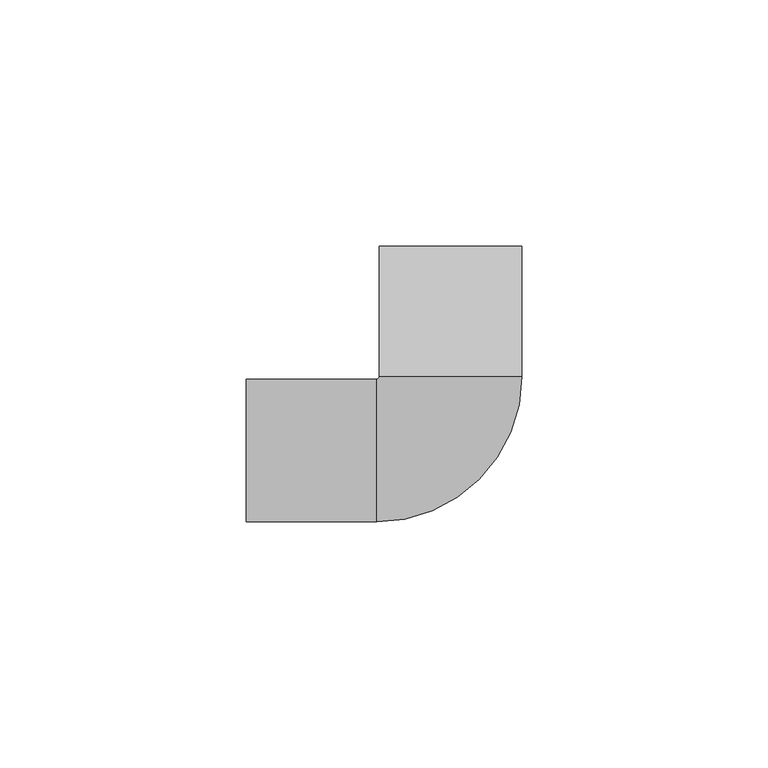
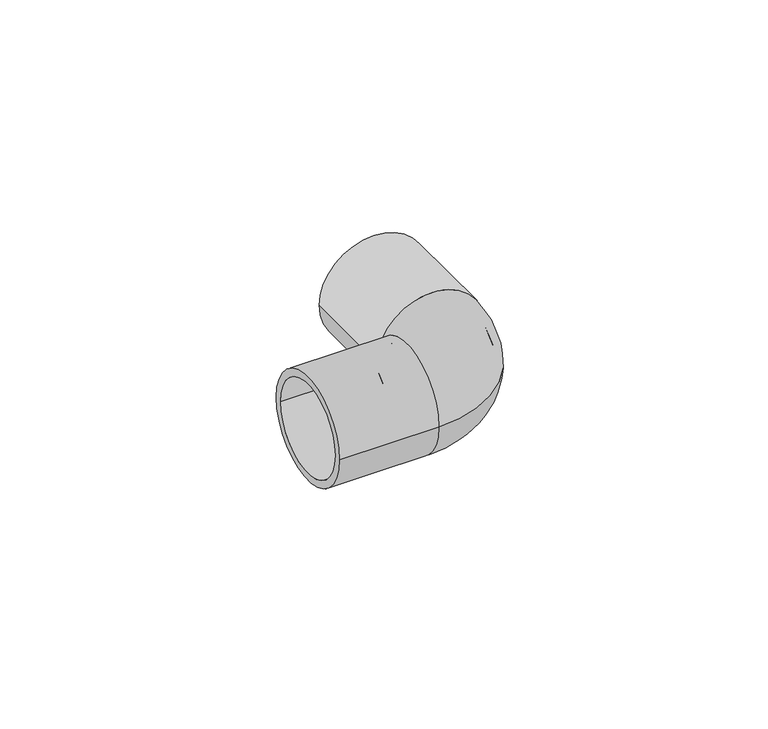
"""IFC4 building model written with IfcOpenShell, lengths in millimetres: cable carrier fitting geometry."""

import ifcopenshell
import ifcopenshell.guid

model = None  # the IFC model being written
_history = None  # IfcOwnerHistory: only IFC2X3 demands one
_inside = {}  # id of a spatial element -> (the spatial element, [elements in it])
_under = {}  # id of a project, library or spatial element -> (it, [spatial elements below it])
_declared = {}  # id of a project -> (the project, [libraries it declares])
_typed = {}  # id of a type object -> (the type object, [elements of that type])
_made_of = {}  # id of a material, layer set ... -> (it, [elements and type objects made of it])


def new_model(schema):
    """Start an empty IFC model of exactly this schema.

    Asked for "IFC4X3", IfcOpenShell would pick the latest addendum, in which some entities
    have other attributes; the version numbers below select the first issue.
    IFC2X3 requires an IfcOwnerHistory on every rooted entity: one is made here for all.
    """
    global model, _history
    if schema == "IFC4X3":
        model = ifcopenshell.file(schema_version=(4, 3, 0, 0))
    else:
        model = ifcopenshell.file(schema=schema)
    _inside.clear()
    _under.clear()
    _declared.clear()
    _typed.clear()
    _made_of.clear()
    _history = None
    if model.schema == "IFC2X3":
        org = make("IfcOrganization", Name="unknown")
        user = make(
            "IfcPersonAndOrganization",
            ThePerson=make("IfcPerson", FamilyName="unknown"),
            TheOrganization=org,
        )
        app = make(
            "IfcApplication",
            ApplicationDeveloper=org,
            Version="unknown",
            ApplicationFullName="unknown",
            ApplicationIdentifier="unknown",
        )
        _history = make(
            "IfcOwnerHistory",
            OwningUser=user,
            OwningApplication=app,
            ChangeAction="ADDED",
            CreationDate=0,
        )
    return model


def make(cls, **values):
    """One entity of the class cls with the attributes given. An attribute that is None is left unset."""
    return model.create_entity(
        cls, **{name: value for name, value in values.items() if value is not None}
    )


def rooted(cls, **values):
    """An entity with a GlobalId (a new one), such as an element, a storey or a relation."""
    return make(cls, GlobalId=ifcopenshell.guid.new(), OwnerHistory=_history, **values)


def si_unit(unit_type, name, prefix=None):
    """IfcSIUnit, for example si_unit("LENGTHUNIT", "METRE", prefix="MILLI")."""
    return make("IfcSIUnit", UnitType=unit_type, Prefix=prefix, Name=name)


def assignment(units):
    """IfcUnitAssignment: the units of a project."""
    return None if units is None else make("IfcUnitAssignment", Units=units)


def point(xyz):
    """IfcCartesianPoint."""
    return None if xyz is None else make("IfcCartesianPoint", Coordinates=xyz)


def direction(xyz):
    """IfcDirection."""
    return None if xyz is None else make("IfcDirection", DirectionRatios=xyz)


def frame(location, z_axis=None, x_axis=None):
    """IfcAxis2Placement3D, a coordinate frame: its origin and axes. An axis left out is left unset."""
    return make(
        "IfcAxis2Placement3D",
        Location=point(location),
        Axis=direction(z_axis),
        RefDirection=direction(x_axis),
    )


def origin():
    """The frame at (0, 0, 0) with its axes left unset."""
    return frame((0.0, 0.0, 0.0))


def place(relative_to, where):
    """IfcLocalPlacement: puts the frame where relative to a parent placement (None: the world)."""
    return make(
        "IfcLocalPlacement", PlacementRelTo=relative_to, RelativePlacement=where
    )


def context(
    kind, dimensions, precision=None, world=None, true_north=None, identifier=None
):
    """IfcGeometricRepresentationContext, for example the 3D "Model" context."""
    return make(
        "IfcGeometricRepresentationContext",
        ContextIdentifier=identifier,
        ContextType=kind,
        CoordinateSpaceDimension=dimensions,
        Precision=precision,
        WorldCoordinateSystem=world,
        TrueNorth=true_north,
    )


def project(units=None, contexts=None):
    """IfcProject with its units and contexts."""
    return rooted(
        "IfcProject",
        Name="project",
        RepresentationContexts=contexts,
        UnitsInContext=assignment(units),
    )


def spatial(cls, under=None, at=None, **own):
    """A site, building, storey or space (cls), placed at a placement, below another one or the project."""
    s = rooted(cls, ObjectPlacement=at, **own)
    if under is not None:
        _under.setdefault(under.id(), (under, []))[1].append(s)
    return s


def polyline(points):
    """IfcPolyline through the points."""
    return make("IfcPolyline", Points=[point(p) for p in points])


def circle_curve(where, radius):
    """IfcCircle in the frame where."""
    return make("IfcCircle", Position=where, Radius=radius)


def ellipse_curve(where, semi_axis1, semi_axis2):
    """IfcEllipse in the frame where."""
    return make(
        "IfcEllipse", Position=where, SemiAxis1=semi_axis1, SemiAxis2=semi_axis2
    )


def trimmed(basis, trim1, trim2, sense, master):
    """IfcTrimmedCurve: the piece of a basis curve between two trims."""
    return make(
        "IfcTrimmedCurve",
        BasisCurve=basis,
        Trim1=trim1,
        Trim2=trim2,
        SenseAgreement=sense,
        MasterRepresentation=master,
    )


def shape(context_of_items, identifier, shape_type, items):
    """IfcShapeRepresentation: the items that make up one representation, for example the "Body"."""
    return make(
        "IfcShapeRepresentation",
        ContextOfItems=context_of_items,
        RepresentationIdentifier=identifier,
        RepresentationType=shape_type,
        Items=items,
    )


def source(mapping_origin, context_of_items, identifier, shape_type, items):
    """IfcRepresentationMap: a shape defined once, which mapped items show again and again."""
    return make(
        "IfcRepresentationMap",
        MappingOrigin=mapping_origin,
        MappedRepresentation=shape(context_of_items, identifier, shape_type, items),
    )


def transform(
    local_origin,
    x_axis=None,
    y_axis=None,
    z_axis=None,
    scale=None,
    scale2=None,
    scale3=None,
    uniform=True,
):
    """IfcCartesianTransformationOperator3D, or its non-uniform kind. x_axis, y_axis, z_axis: its Axis1, 2, 3."""
    if uniform:
        return make(
            "IfcCartesianTransformationOperator3D",
            Axis1=direction(x_axis),
            Axis2=direction(y_axis),
            LocalOrigin=point(local_origin),
            Scale=scale,
            Axis3=direction(z_axis),
        )
    return make(
        "IfcCartesianTransformationOperator3DnonUniform",
        Axis1=direction(x_axis),
        Axis2=direction(y_axis),
        LocalOrigin=point(local_origin),
        Scale=scale,
        Axis3=direction(z_axis),
        Scale2=scale2,
        Scale3=scale3,
    )


def mapped(mapping_source, mapping_target):
    """IfcMappedItem: shows the shape of a source again, moved by a transform."""
    return make(
        "IfcMappedItem", MappingSource=mapping_source, MappingTarget=mapping_target
    )


def made_of(thing, what):
    """Note that an element or type object is made of a material, layer set ...; save() writes the relation."""
    if what is not None:
        _made_of.setdefault(what.id(), (what, []))[1].append(thing)
    return thing


def element(
    cls,
    number,
    at=None,
    inside=None,
    cuts=None,
    type_object=None,
    material=None,
    context=None,
    identifier="Body",
    shape_type=None,
    held_by="IfcProductDefinitionShape",
    body=None,
    shapes=None,
    **own,
):
    """One element of the class cls, such as IfcWall. Its Tag is "e" and its number.

    at: its placement. inside: the storey or other place that contains it. cuts: it is an
    opening in that element (IfcRelVoidsElement). A single representation is given by context,
    identifier, shape_type and body (its items); several are given by shapes. held_by: the class
    of the entity that holds the representations. save() writes the other relations.
    """
    e = rooted(cls, Tag="e%d" % number, ObjectPlacement=at, **own)
    if body is not None:
        shapes = [shape(context, identifier, shape_type, body)]
    if shapes is not None:
        e.Representation = make(held_by, Representations=shapes)
    if inside is not None:
        _inside.setdefault(inside.id(), (inside, []))[1].append(e)
    if cuts is not None:
        rooted(
            "IfcRelVoidsElement", RelatingBuildingElement=cuts, RelatedOpeningElement=e
        )
    if type_object is not None:
        _typed.setdefault(type_object.id(), (type_object, []))[1].append(e)
    return made_of(e, material)


def aggregate(whole, parts):
    """IfcRelAggregates: a whole, such as a stair, and the parts it consists of."""
    return rooted("IfcRelAggregates", RelatingObject=whole, RelatedObjects=parts)


def save(model, path):
    """Write the relations noted so far, then the file.

    IfcRelAggregates (storeys below a building ...), IfcRelContainedInSpatialStructure (elements
    in a storey), IfcRelDefinesByType, IfcRelAssociatesMaterial and IfcRelDeclares: one each for
    every whole, place, type object, material and project.
    """
    for whole, parts in _under.values():
        aggregate(whole, parts)
    for where, things in _inside.values():
        rooted(
            "IfcRelContainedInSpatialStructure",
            RelatedElements=things,
            RelatingStructure=where,
        )
    for kind, things in _typed.values():
        rooted("IfcRelDefinesByType", RelatedObjects=things, RelatingType=kind)
    for what, things in _made_of.values():
        rooted("IfcRelAssociatesMaterial", RelatedObjects=things, RelatingMaterial=what)
    for by, libraries in _declared.values():
        rooted("IfcRelDeclares", RelatingContext=by, RelatedDefinitions=libraries)
    model.write(path)


def plane_surface(at):
    """IfcPlane: the flat surface through the origin of the frame at, square to its z axis."""
    return make("IfcPlane", Position=at)


def cylinder_surface(at, radius):
    """IfcCylindricalSurface: all points at the distance radius from the z axis of the frame at."""
    return make("IfcCylindricalSurface", Position=at, Radius=radius)


def revolved_surface(curve, axis_point, axis_direction):
    """IfcSurfaceOfRevolution: the curve turned about the line through axis_point along axis_direction."""
    return make(
        "IfcSurfaceOfRevolution",
        SweptCurve=make("IfcArbitraryOpenProfileDef", ProfileType="CURVE", Curve=curve),
        AxisPosition=make("IfcAxis1Placement", Location=point(axis_point), Axis=direction(axis_direction)),
    )


def advanced_brep(points, edges, surfaces, faces):
    """IfcAdvancedBrep: a solid bounded by faces that lie on surfaces and meet in shared edges.

    An edge is (start, end): straight between two places in points (the first is 0);
    or (start, end, curve); or (start, end, curve, False) where it runs against its curve.
    A face is (place in surfaces, loops), or (place, loops, False) where it looks against
    its surface's normal. A loop lists edges by number (the first is 1), with a minus sign
    where the edge is run from its end to its start. The first loop is the outer one.
    """
    corners = [point(p) for p in points]
    vertices = [make("IfcVertexPoint", VertexGeometry=c) for c in corners]
    made = []
    for start, end, *more in edges:
        made.append(
            make(
                "IfcEdgeCurve",
                EdgeStart=vertices[start],
                EdgeEnd=vertices[end],
                EdgeGeometry=more[0] if more else make("IfcPolyline", Points=[corners[start], corners[end]]),
                SameSense=more[1] if len(more) > 1 else True,
            )
        )
    hull = []
    for where, loops, *sense in faces:
        bounds = []
        for j, loop in enumerate(loops):
            ring = [make("IfcOrientedEdge", EdgeElement=made[abs(k) - 1], Orientation=k > 0) for k in loop]
            bounds.append(
                make(
                    "IfcFaceOuterBound" if j == 0 else "IfcFaceBound",
                    Bound=make("IfcEdgeLoop", EdgeList=ring),
                    Orientation=True,
                )
            )
        hull.append(make("IfcAdvancedFace", Bounds=bounds, FaceSurface=surfaces[where], SameSense=sense[0] if sense else True))
    return make("IfcAdvancedBrep", Outer=make("IfcClosedShell", CfsFaces=hull))


def cable_carrier_fitting_e81b3390(model_context):
    return source(origin(), model_context, "Body", "AdvancedBrep", [
        advanced_brep(
        [(12.5, 15.0, 0.0), (-15.0, -12.5, 0.0), (-15.0, 12.5, 0.0), (-12.5, 15.0, 0.0), (14.5, 15.0, 0.0), (-15.0, -14.5, 0.0), (-15.0, 14.5, 0.0), (-14.5, 15.0, 0.0), (0.0, 15.0, -14.5), (0.0, 15.0, 14.5), (14.5, 41.5, 0.0), (-14.5, 41.5, 0.0), (12.5, 41.5, 0.0), (-12.5, 41.5, 0.0), (-41.5, -14.5, 0.0), (-41.5, 14.5, 0.0), (-41.5, -12.5, 0.0), (-41.5, 12.5, 0.0)],
        [
            (0, 1, circle_curve(frame((-15.0, 15.0, 0.0), z_axis=(0.0, 0.0, -1.0), x_axis=(0.0, -1.0, 0.0)), 27.5)),
            (1, 2, circle_curve(frame((-15.0, 0.0, 0.0), z_axis=(-1.0, 0.0, 0.0), x_axis=(0.0, 1.0, 0.0)), 12.5)),
            (2, 3, circle_curve(frame((-15.0, 15.0, 0.0), z_axis=(0.0, 0.0, 1.0), x_axis=(0.0, -1.0, 0.0)), 2.5)),
            (3, 0, circle_curve(frame((0.0, 15.0, 0.0), z_axis=(0.0, 1.0, 0.0), x_axis=(-1.0, 0.0, 0.0)), 12.5)),
            (0, 3, circle_curve(frame((0.0, 15.0, 0.0), z_axis=(0.0, 1.0, 0.0), x_axis=(-1.0, 0.0, 0.0)), 12.5)),
            (2, 1, circle_curve(frame((-15.0, 0.0, 0.0), z_axis=(-1.0, 0.0, 0.0), x_axis=(0.0, 1.0, 0.0)), 12.5)),
            (4, 5, circle_curve(frame((-15.0, 15.0, 0.0), z_axis=(0.0, 0.0, -1.0), x_axis=(0.0, -1.0, 0.0)), 29.5)),
            (5, 6, circle_curve(frame((-15.0, 0.0, 0.0), z_axis=(1.0, 0.0, 0.0), x_axis=(0.0, 1.0, 0.0)), 14.5)),
            (6, 7, circle_curve(frame((-15.0, 15.0, 0.0), z_axis=(0.0, 0.0, 1.0), x_axis=(0.0, -1.0, 0.0)), 0.5)),
            (7, 8, circle_curve(frame((0.0, 15.0, 0.0), z_axis=(0.0, -1.0, 0.0), x_axis=(-1.0, 0.0, 0.0)), 14.5)),
            (8, 4, circle_curve(frame((0.0, 15.0, 0.0), z_axis=(0.0, -1.0, 0.0), x_axis=(-1.0, 0.0, 0.0)), 14.5)),
            (4, 9, circle_curve(frame((0.0, 15.0, 0.0), z_axis=(0.0, -1.0, 0.0), x_axis=(-1.0, 0.0, 0.0)), 14.5)),
            (9, 7, circle_curve(frame((0.0, 15.0, 0.0), z_axis=(0.0, -1.0, 0.0), x_axis=(-1.0, 0.0, 0.0)), 14.5)),
            (6, 5, circle_curve(frame((-15.0, 0.0, 0.0), z_axis=(1.0, 0.0, 0.0), x_axis=(0.0, 1.0, 0.0)), 14.5)),
            (10, 11, circle_curve(frame((0.0, 41.5, 0.0), z_axis=(0.0, 1.0, 0.0), x_axis=(-1.0, 0.0, 0.0)), 14.5)),
            (11, 10, circle_curve(frame((0.0, 41.5, 0.0), z_axis=(0.0, 1.0, 0.0), x_axis=(-1.0, 0.0, 0.0)), 14.5)),
            (12, 13, circle_curve(frame((0.0, 41.5, 0.0), z_axis=(0.0, -1.0, 0.0), x_axis=(-1.0, 0.0, 0.0)), 12.5)),
            (13, 12, circle_curve(frame((0.0, 41.5, 0.0), z_axis=(0.0, -1.0, 0.0), x_axis=(-1.0, 0.0, 0.0)), 12.5)),
            (11, 7),
            (4, 10),
            (13, 3),
            (0, 12),
            (14, 15, circle_curve(frame((-41.5, 0.0, 0.0), z_axis=(-1.0, 0.0, 0.0), x_axis=(0.0, 1.0, 0.0)), 14.5)),
            (15, 14, circle_curve(frame((-41.5, 0.0, 0.0), z_axis=(-1.0, 0.0, 0.0), x_axis=(0.0, 1.0, 0.0)), 14.5)),
            (16, 17, circle_curve(frame((-41.5, 0.0, 0.0), z_axis=(1.0, 0.0, 0.0), x_axis=(0.0, 1.0, 0.0)), 12.5)),
            (17, 16, circle_curve(frame((-41.5, 0.0, 0.0), z_axis=(1.0, 0.0, 0.0), x_axis=(0.0, 1.0, 0.0)), 12.5)),
            (17, 2),
            (1, 16),
            (15, 6),
            (5, 14),
        ],
        [
            revolved_surface(trimmed(ellipse_curve(frame((-15.0, 0.0, 0.0), z_axis=(1.0, 0.0, 0.0), x_axis=(0.0, 1.0, 0.0)), 12.5, 12.5), [point((-15.0, 12.5, 0.0))], [point((-15.0, -12.5, 0.0))], True, "CARTESIAN"), (-15.0, 15.0, 0.0), (0.0, 0.0, 1.0)),
            revolved_surface(trimmed(ellipse_curve(frame((-15.0, 0.0, 0.0), z_axis=(1.0, 0.0, 0.0), x_axis=(0.0, 1.0, 0.0)), 12.5, 12.5), [point((-15.0, -12.5, 0.0))], [point((-15.0, 12.5, 0.0))], True, "CARTESIAN"), (-15.0, 15.0, 0.0), (0.0, 0.0, 1.0)),
            revolved_surface(trimmed(ellipse_curve(frame((-15.0, 0.0, 0.0), z_axis=(-1.0, 0.0, 0.0), x_axis=(0.0, 1.0, 0.0)), 14.5, 14.5), [point((-15.0, 14.5, 0.0))], [point((-15.0, -14.5, 0.0))], True, "CARTESIAN"), (-15.0, 15.0, 0.0), (0.0, 0.0, 1.0)),
            revolved_surface(trimmed(ellipse_curve(frame((-15.0, 0.0, 0.0), z_axis=(-1.0, 0.0, 0.0), x_axis=(0.0, 1.0, 0.0)), 14.5, 14.5), [point((-15.0, -14.5, 0.0))], [point((-15.0, 14.5, 0.0))], True, "CARTESIAN"), (-15.0, 15.0, 0.0), (0.0, 0.0, 1.0)),
            plane_surface(frame((0.0, 41.5, 0.0), z_axis=(0.0, 1.0, 0.0), x_axis=(0.0, 0.0, 1.0))),
            cylinder_surface(frame((0.0, 15.0, 0.0), z_axis=(0.0, -1.0, 0.0), x_axis=(-1.0, 0.0, 0.0)), 14.5),
            revolved_surface(polyline([(-12.5, 41.5, 0.0), (-12.5, 15.0, 0.0)]), (0.0, 15.0, 0.0), (0.0, 1.0, 0.0)),
            plane_surface(frame((-41.5, 0.0, 0.0), z_axis=(-1.0, 0.0, 0.0), x_axis=(0.0, 0.0, 1.0))),
            revolved_surface(polyline([(-15.0, 12.5, 0.0), (-41.5, 12.5, 0.0)]), (-41.5, 0.0, 0.0), (1.0, 0.0, 0.0)),
            cylinder_surface(frame((-41.5, 0.0, 0.0), z_axis=(-1.0, 0.0, 0.0), x_axis=(0.0, 1.0, 0.0)), 14.5),
        ],
        [
            (0, [[1, 2, 3, 4]]),
            (1, [[-1, 5, -3, 6]]),
            (2, [[7, 8, 9, 10, 11]]),
            (3, [[-7, 12, 13, -9, 14]]),
            (4, [[15, 16], [17, 18]]),
            (5, [[-16, 19, -13, -12, 20]]),
            (5, [[-15, -20, -11, -10, -19]]),
            (6, [[-18, 21, -5, 22]]),
            (6, [[-17, -22, -4, -21]]),
            (7, [[23, 24], [25, 26]]),
            (8, [[-26, 27, -2, 28]]),
            (8, [[-25, -28, -6, -27]]),
            (9, [[-24, 29, -8, 30]]),
            (9, [[-23, -30, -14, -29]]),
        ],
    ),
    ])


if __name__ == "__main__":
    model = new_model("IFC4")
    model_context = context("Model", 3, world=origin())
    ifc_project = project(units=[si_unit("LENGTHUNIT", "METRE", prefix="MILLI")], contexts=[model_context])
    site = spatial("IfcSite", under=ifc_project)
    building = spatial("IfcBuilding", under=site)
    placement = place(None, origin())
    cable_carrier_fitting_shape = cable_carrier_fitting_e81b3390(model_context)
    element("IfcCableCarrierFitting", 1, at=placement, inside=building, context=model_context, shape_type="MappedRepresentation", body=[
        mapped(cable_carrier_fitting_shape, transform((0.0, 0.0, 0.0), x_axis=(1.0, 0.0, 0.0), y_axis=(0.0, 1.0, 0.0), z_axis=(0.0, 0.0, 1.0))),
    ])
    save(model, "model.ifc")
